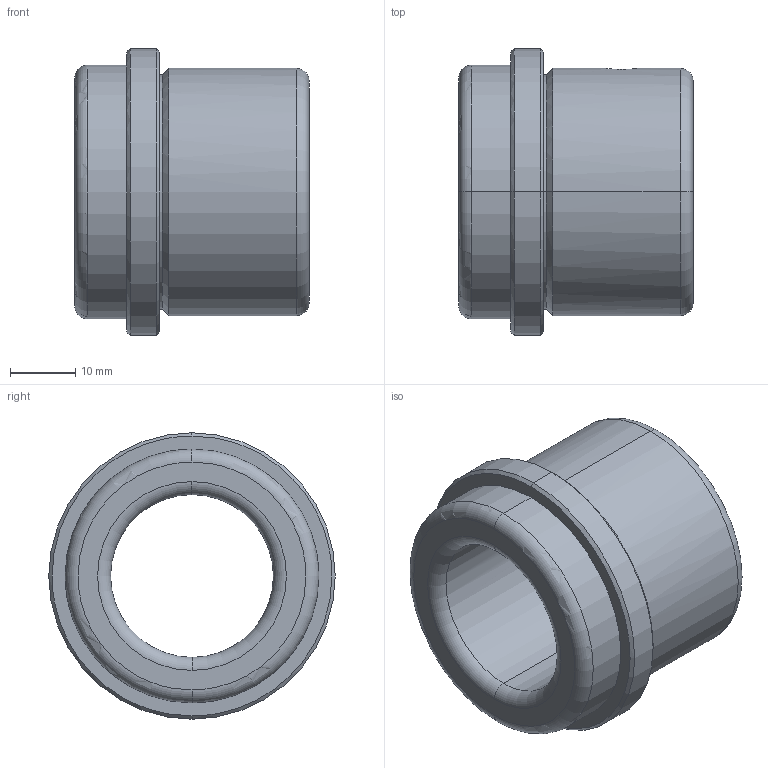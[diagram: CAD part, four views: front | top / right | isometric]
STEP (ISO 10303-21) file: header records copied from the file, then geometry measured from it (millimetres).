
FILE_DESCRIPTION(('CATIA V5 STEP Exchange'),'2;1');
FILE_NAME('C:\Users\Utente\Desktop\IO LAVORO\3D X SITO CF\X SITO\FAMO\FAMO-SF1-A25 x 36.stp','2021-01-06T16:23:44+00:00',('none'),('none'),'CATIA Version 5 Release 20 GA (IN-10)','CATIA V5 STEP AP203','none');
FILE_SCHEMA(('CONFIG_CONTROL_DESIGN'));
Length unit declared in the file: millimetre
Products named in the file (1): FAMO-SF1-A25 x 36
Bounding box: 36 x 44 x 44 mm (x, y, z)
Volume: 24732.7 mm3; surface area: 9266.7 mm2
Topology: 1 solids, 1 shells, 33 faces, 106 edges, 78 vertices
Faces by surface type: cylinder 12, torus 8, cone 8, plane 5
Entity records: 1429 total; most frequent: CARTESIAN_POINT 453, ORIENTED_EDGE 212, DIRECTION 156, EDGE_CURVE 106, AXIS2_PLACEMENT_3D 104, VERTEX_POINT 78, CIRCLE 70, EDGE_LOOP 40
